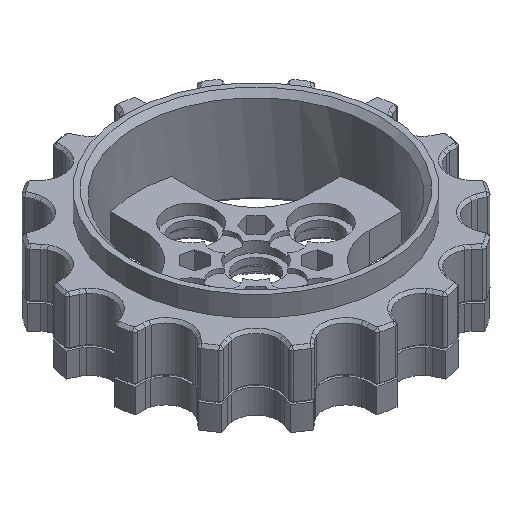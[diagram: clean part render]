
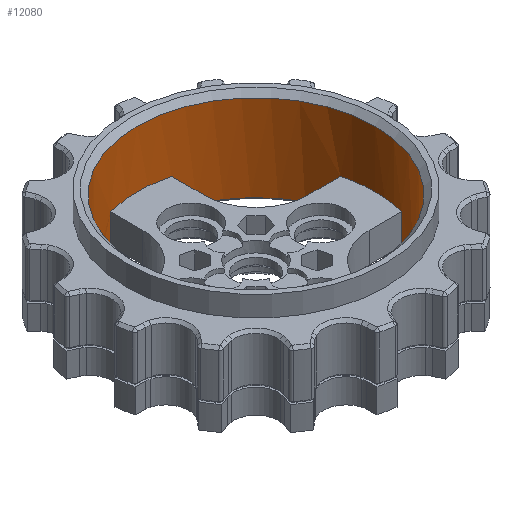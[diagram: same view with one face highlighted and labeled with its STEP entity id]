
A CAD part, isometric view. The second image highlights one B-rep face of the part: STEP entity #12080.
In plain terms, the highlighted cylindrical face has radius 22 mm (diameter 44 mm), a full revolution.
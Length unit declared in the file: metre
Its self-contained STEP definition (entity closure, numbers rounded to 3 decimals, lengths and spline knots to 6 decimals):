
#238=CYLINDRICAL_SURFACE('',#13554,0.022);
#509=B_SPLINE_CURVE_WITH_KNOTS('',3,(#20864,#20865,#20866,#20867),
 .UNSPECIFIED.,.F.,.F.,(4,4),(0.,1.),.UNSPECIFIED.);
#510=B_SPLINE_CURVE_WITH_KNOTS('',3,(#20869,#20870,#20871,#20872,#20873),
 .UNSPECIFIED.,.F.,.F.,(4,1,4),(0.,0.5,1.),.UNSPECIFIED.);
#511=B_SPLINE_CURVE_WITH_KNOTS('',3,(#20879,#20880,#20881,#20882),
 .UNSPECIFIED.,.F.,.F.,(4,4),(0.,1.),.UNSPECIFIED.);
#512=B_SPLINE_CURVE_WITH_KNOTS('',3,(#20884,#20885,#20886,#20887,#20888),
 .UNSPECIFIED.,.F.,.F.,(4,1,4),(0.,0.5,1.),.UNSPECIFIED.);
#513=B_SPLINE_CURVE_WITH_KNOTS('',3,(#20894,#20895,#20896,#20897),
 .UNSPECIFIED.,.F.,.F.,(4,4),(0.,1.),.UNSPECIFIED.);
#514=B_SPLINE_CURVE_WITH_KNOTS('',3,(#20899,#20900,#20901,#20902,#20903),
 .UNSPECIFIED.,.F.,.F.,(4,1,4),(0.,0.5,1.),.UNSPECIFIED.);
#515=B_SPLINE_CURVE_WITH_KNOTS('',3,(#20909,#20910,#20911,#20912),
 .UNSPECIFIED.,.F.,.F.,(4,4),(0.,1.),.UNSPECIFIED.);
#516=B_SPLINE_CURVE_WITH_KNOTS('',3,(#20914,#20915,#20916,#20917,#20918),
 .UNSPECIFIED.,.F.,.F.,(4,1,4),(0.,0.5,1.),.UNSPECIFIED.);
#1347=LINE('',#20875,#2231);
#1348=LINE('',#20890,#2232);
#1349=LINE('',#20905,#2233);
#1350=LINE('',#20920,#2234);
#2231=VECTOR('',#17221,1.);
#2232=VECTOR('',#17224,1.);
#2233=VECTOR('',#17227,1.);
#2234=VECTOR('',#17230,1.);
#5336=ORIENTED_EDGE('',*,*,#7450,.F.);
#5337=ORIENTED_EDGE('',*,*,#7451,.T.);
#5338=ORIENTED_EDGE('',*,*,#7452,.T.);
#5339=ORIENTED_EDGE('',*,*,#7453,.F.);
#5340=ORIENTED_EDGE('',*,*,#7454,.F.);
#5341=ORIENTED_EDGE('',*,*,#7455,.T.);
#5342=ORIENTED_EDGE('',*,*,#7456,.T.);
#5343=ORIENTED_EDGE('',*,*,#7457,.F.);
#5344=ORIENTED_EDGE('',*,*,#7458,.F.);
#5345=ORIENTED_EDGE('',*,*,#7459,.T.);
#5346=ORIENTED_EDGE('',*,*,#7460,.T.);
#5347=ORIENTED_EDGE('',*,*,#7461,.F.);
#5348=ORIENTED_EDGE('',*,*,#7462,.F.);
#5349=ORIENTED_EDGE('',*,*,#7463,.T.);
#5350=ORIENTED_EDGE('',*,*,#7464,.T.);
#5351=ORIENTED_EDGE('',*,*,#7465,.F.);
#5352=ORIENTED_EDGE('',*,*,#7449,.F.);
#7449=EDGE_CURVE('',#8669,#8669,#9585,.T.);
#7450=EDGE_CURVE('',#8670,#8671,#9586,.T.);
#7451=EDGE_CURVE('',#8670,#8672,#509,.F.);
#7452=EDGE_CURVE('',#8672,#8673,#510,.T.);
#7453=EDGE_CURVE('',#8674,#8673,#1347,.T.);
#7454=EDGE_CURVE('',#8675,#8674,#9587,.T.);
#7455=EDGE_CURVE('',#8675,#8676,#511,.F.);
#7456=EDGE_CURVE('',#8676,#8677,#512,.T.);
#7457=EDGE_CURVE('',#8678,#8677,#1348,.T.);
#7458=EDGE_CURVE('',#8679,#8678,#9588,.T.);
#7459=EDGE_CURVE('',#8679,#8680,#513,.F.);
#7460=EDGE_CURVE('',#8680,#8681,#514,.T.);
#7461=EDGE_CURVE('',#8682,#8681,#1349,.T.);
#7462=EDGE_CURVE('',#8683,#8682,#9589,.T.);
#7463=EDGE_CURVE('',#8683,#8684,#515,.F.);
#7464=EDGE_CURVE('',#8684,#8685,#516,.T.);
#7465=EDGE_CURVE('',#8671,#8685,#1350,.T.);
#8669=VERTEX_POINT('',#20859);
#8670=VERTEX_POINT('',#20862);
#8671=VERTEX_POINT('',#20863);
#8672=VERTEX_POINT('',#20868);
#8673=VERTEX_POINT('',#20874);
#8674=VERTEX_POINT('',#20876);
#8675=VERTEX_POINT('',#20878);
#8676=VERTEX_POINT('',#20883);
#8677=VERTEX_POINT('',#20889);
#8678=VERTEX_POINT('',#20891);
#8679=VERTEX_POINT('',#20893);
#8680=VERTEX_POINT('',#20898);
#8681=VERTEX_POINT('',#20904);
#8682=VERTEX_POINT('',#20906);
#8683=VERTEX_POINT('',#20908);
#8684=VERTEX_POINT('',#20913);
#8685=VERTEX_POINT('',#20919);
#9585=CIRCLE('',#13553,0.022);
#9586=CIRCLE('',#13555,0.022);
#9587=CIRCLE('',#13556,0.022);
#9588=CIRCLE('',#13557,0.022);
#9589=CIRCLE('',#13558,0.022);
#10293=EDGE_LOOP('',(#5336,#5337,#5338,#5339,#5340,#5341,#5342,#5343,#5344,
#5345,#5346,#5347,#5348,#5349,#5350,#5351));
#10294=EDGE_LOOP('',(#5352));
#11081=FACE_BOUND('',#10293,.T.);
#11082=FACE_BOUND('',#10294,.T.);
#12080=ADVANCED_FACE('',(#11081,#11082),#238,.F.);
#13553=AXIS2_PLACEMENT_3D('',#20858,#17215,#17216);
#13554=AXIS2_PLACEMENT_3D('',#20860,#17217,#17218);
#13555=AXIS2_PLACEMENT_3D('',#20861,#17219,#17220);
#13556=AXIS2_PLACEMENT_3D('',#20877,#17222,#17223);
#13557=AXIS2_PLACEMENT_3D('',#20892,#17225,#17226);
#13558=AXIS2_PLACEMENT_3D('',#20907,#17228,#17229);
#17215=DIRECTION('',(0.,0.,-1.));
#17216=DIRECTION('',(1.,0.,0.));
#17217=DIRECTION('',(0.,0.,1.));
#17218=DIRECTION('',(1.,0.,0.));
#17219=DIRECTION('',(0.,0.,1.));
#17220=DIRECTION('',(1.,0.,0.));
#17221=DIRECTION('',(0.,0.,-1.));
#17222=DIRECTION('',(0.,0.,1.));
#17223=DIRECTION('',(-0.257,-0.966,0.));
#17224=DIRECTION('',(0.,0.,-1.));
#17225=DIRECTION('',(0.,0.,1.));
#17226=DIRECTION('',(-0.966,0.257,0.));
#17227=DIRECTION('',(0.,0.,-1.));
#17228=DIRECTION('',(0.,0.,1.));
#17229=DIRECTION('',(0.257,0.966,0.));
#17230=DIRECTION('',(0.,0.,-1.));
#20858=CARTESIAN_POINT('',(0.,0.,0.0075));
#20859=CARTESIAN_POINT('',(0.022,0.,0.0075));
#20860=CARTESIAN_POINT('',(0.,0.,0.009));
#20861=CARTESIAN_POINT('',(0.,0.,-0.003));
#20862=CARTESIAN_POINT('',(0.02126,-0.005657,-0.003));
#20863=CARTESIAN_POINT('',(0.02126,0.005657,-0.003));
#20864=CARTESIAN_POINT('',(0.02126,-0.005657,-0.0085));
#20865=CARTESIAN_POINT('',(0.02126,-0.005657,-0.006666));
#20866=CARTESIAN_POINT('',(0.02126,-0.005657,-0.004833));
#20867=CARTESIAN_POINT('',(0.02126,-0.005657,-0.003));
#20868=CARTESIAN_POINT('',(0.02126,-0.005657,-0.0085));
#20869=CARTESIAN_POINT('',(0.02126,-0.005657,-0.0085));
#20870=CARTESIAN_POINT('',(0.02027,-0.00938,-0.0085));
#20871=CARTESIAN_POINT('',(0.016288,-0.016288,-0.0085));
#20872=CARTESIAN_POINT('',(0.00938,-0.02027,-0.0085));
#20873=CARTESIAN_POINT('',(0.005657,-0.02126,-0.0085));
#20874=CARTESIAN_POINT('',(0.005657,-0.02126,-0.0085));
#20875=CARTESIAN_POINT('',(0.005657,-0.02126,-0.003));
#20876=CARTESIAN_POINT('',(0.005657,-0.02126,-0.003));
#20877=CARTESIAN_POINT('',(0.,0.,-0.003));
#20878=CARTESIAN_POINT('',(-0.005657,-0.02126,-0.003));
#20879=CARTESIAN_POINT('',(-0.005657,-0.02126,-0.0085));
#20880=CARTESIAN_POINT('',(-0.005657,-0.02126,-0.006667));
#20881=CARTESIAN_POINT('',(-0.005657,-0.02126,-0.004833));
#20882=CARTESIAN_POINT('',(-0.005657,-0.02126,-0.003));
#20883=CARTESIAN_POINT('',(-0.005657,-0.02126,-0.0085));
#20884=CARTESIAN_POINT('',(-0.005657,-0.02126,-0.0085));
#20885=CARTESIAN_POINT('',(-0.00938,-0.02027,-0.0085));
#20886=CARTESIAN_POINT('',(-0.016288,-0.016288,-0.0085));
#20887=CARTESIAN_POINT('',(-0.02027,-0.00938,-0.0085));
#20888=CARTESIAN_POINT('',(-0.02126,-0.005657,-0.0085));
#20889=CARTESIAN_POINT('',(-0.02126,-0.005657,-0.0085));
#20890=CARTESIAN_POINT('',(-0.02126,-0.005657,-0.003));
#20891=CARTESIAN_POINT('',(-0.02126,-0.005657,-0.003));
#20892=CARTESIAN_POINT('',(0.,0.,-0.003));
#20893=CARTESIAN_POINT('',(-0.02126,0.005657,-0.003));
#20894=CARTESIAN_POINT('',(-0.02126,0.005657,-0.0085));
#20895=CARTESIAN_POINT('',(-0.02126,0.005657,-0.006666));
#20896=CARTESIAN_POINT('',(-0.02126,0.005657,-0.004833));
#20897=CARTESIAN_POINT('',(-0.02126,0.005657,-0.003));
#20898=CARTESIAN_POINT('',(-0.02126,0.005657,-0.0085));
#20899=CARTESIAN_POINT('',(-0.02126,0.005657,-0.0085));
#20900=CARTESIAN_POINT('',(-0.02027,0.00938,-0.0085));
#20901=CARTESIAN_POINT('',(-0.016288,0.016288,-0.0085));
#20902=CARTESIAN_POINT('',(-0.00938,0.02027,-0.0085));
#20903=CARTESIAN_POINT('',(-0.005657,0.02126,-0.0085));
#20904=CARTESIAN_POINT('',(-0.005657,0.02126,-0.0085));
#20905=CARTESIAN_POINT('',(-0.005657,0.02126,-0.003));
#20906=CARTESIAN_POINT('',(-0.005657,0.02126,-0.003));
#20907=CARTESIAN_POINT('',(0.,0.,-0.003));
#20908=CARTESIAN_POINT('',(0.005657,0.02126,-0.003));
#20909=CARTESIAN_POINT('',(0.005657,0.02126,-0.0085));
#20910=CARTESIAN_POINT('',(0.005657,0.02126,-0.006667));
#20911=CARTESIAN_POINT('',(0.005657,0.02126,-0.004833));
#20912=CARTESIAN_POINT('',(0.005657,0.02126,-0.003));
#20913=CARTESIAN_POINT('',(0.005657,0.02126,-0.0085));
#20914=CARTESIAN_POINT('',(0.005657,0.02126,-0.0085));
#20915=CARTESIAN_POINT('',(0.00938,0.02027,-0.0085));
#20916=CARTESIAN_POINT('',(0.016288,0.016288,-0.0085));
#20917=CARTESIAN_POINT('',(0.02027,0.00938,-0.0085));
#20918=CARTESIAN_POINT('',(0.02126,0.005657,-0.0085));
#20919=CARTESIAN_POINT('',(0.02126,0.005657,-0.0085));
#20920=CARTESIAN_POINT('',(0.02126,0.005657,-0.003));
